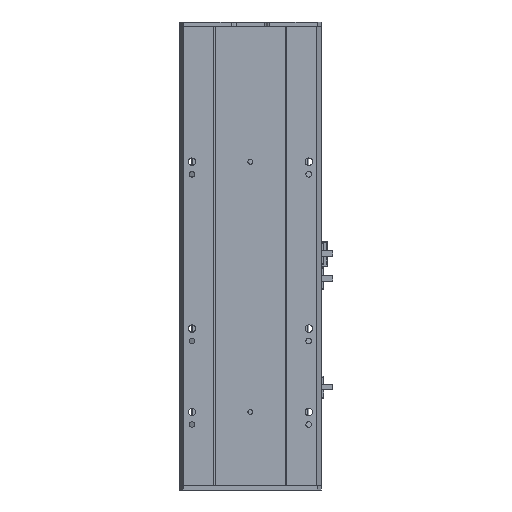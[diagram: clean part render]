
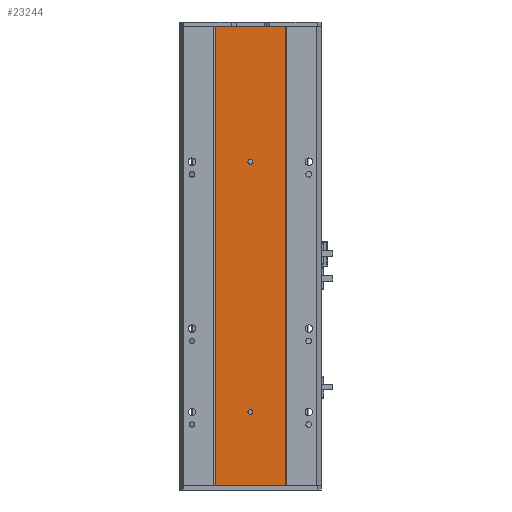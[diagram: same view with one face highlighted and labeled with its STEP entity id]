
A CAD part, front view. The second image highlights one B-rep face of the part: STEP entity #23244.
In plain terms, the highlighted planar face has unit normal (0, -1, 0).
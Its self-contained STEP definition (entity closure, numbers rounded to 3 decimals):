
#143 = FACE_OUTER_BOUND ( 'NONE', #19587, .T. ) ;
#452 = VECTOR ( 'NONE', #985, 1000. ) ;
#920 = VERTEX_POINT ( 'NONE', #22493 ) ;
#972 = EDGE_CURVE ( 'NONE', #9710, #8767, #8970, .T. ) ;
#985 = DIRECTION ( 'NONE',  ( -1., 0., 0. ) ) ;
#1713 = DIRECTION ( 'NONE',  ( 0., 0., 1. ) ) ;
#2142 = ORIENTED_EDGE ( 'NONE', *, *, #8214, .T. ) ;
#2225 = CARTESIAN_POINT ( 'NONE',  ( 85., 2.57, 85.5 ) ) ;
#2523 = CARTESIAN_POINT ( 'NONE',  ( 42.916, 2.57, 0. ) ) ;
#2587 = ORIENTED_EDGE ( 'NONE', *, *, #4840, .T. ) ;
#2681 = ORIENTED_EDGE ( 'NONE', *, *, #972, .F. ) ;
#3549 = CARTESIAN_POINT ( 'NONE',  ( 85., 2.57, 88.5 ) ) ;
#3808 = CARTESIAN_POINT ( 'NONE',  ( 126.916, 2.57, 0. ) ) ;
#4122 = VECTOR ( 'NONE', #15572, 1000. ) ;
#4279 = VERTEX_POINT ( 'NONE', #12403 ) ;
#4456 = EDGE_CURVE ( 'NONE', #16745, #21740, #17890, .T. ) ;
#4840 = EDGE_CURVE ( 'NONE', #14874, #6344, #14153, .T. ) ;
#5314 = LINE ( 'NONE', #19361, #452 ) ;
#5381 = DIRECTION ( 'NONE',  ( 0., 0., 1. ) ) ;
#6061 = DIRECTION ( 'NONE',  ( 0., 1., 0. ) ) ;
#6115 = LINE ( 'NONE', #6771, #19608 ) ;
#6344 = VERTEX_POINT ( 'NONE', #2225 ) ;
#6501 = DIRECTION ( 'NONE',  ( 0., 0., 1. ) ) ;
#6771 = CARTESIAN_POINT ( 'NONE',  ( 42.916, 2.57, 551. ) ) ;
#7745 = CARTESIAN_POINT ( 'NONE',  ( 42.916, 2.57, 0. ) ) ;
#8117 = VECTOR ( 'NONE', #18476, 1000. ) ;
#8214 = EDGE_CURVE ( 'NONE', #4279, #920, #20329, .T. ) ;
#8237 = ORIENTED_EDGE ( 'NONE', *, *, #4456, .T. ) ;
#8598 = DIRECTION ( 'NONE',  ( -1., 0., 0. ) ) ;
#8767 = VERTEX_POINT ( 'NONE', #23636 ) ;
#8945 = AXIS2_PLACEMENT_3D ( 'NONE', #3549, #16373, #5381 ) ;
#8970 = LINE ( 'NONE', #2523, #4122 ) ;
#9212 = EDGE_LOOP ( 'NONE', ( #11988, #2587 ) ) ;
#9399 = CARTESIAN_POINT ( 'NONE',  ( 126.916, 2.57, 0. ) ) ;
#9710 = VERTEX_POINT ( 'NONE', #7745 ) ;
#9890 = FACE_BOUND ( 'NONE', #13186, .T. ) ;
#10538 = EDGE_CURVE ( 'NONE', #16745, #9710, #5314, .T. ) ;
#10602 = DIRECTION ( 'NONE',  ( 0., 1., 0. ) ) ;
#10729 = EDGE_CURVE ( 'NONE', #6344, #14874, #15924, .T. ) ;
#11342 = CARTESIAN_POINT ( 'NONE',  ( 126.916, 2.57, 551. ) ) ;
#11988 = ORIENTED_EDGE ( 'NONE', *, *, #10729, .T. ) ;
#12320 = AXIS2_PLACEMENT_3D ( 'NONE', #21622, #10602, #23475 ) ;
#12403 = CARTESIAN_POINT ( 'NONE',  ( 85., 2.57, 385.5 ) ) ;
#12703 = DIRECTION ( 'NONE',  ( 0., 1., 0. ) ) ;
#13186 = EDGE_LOOP ( 'NONE', ( #2142, #14382 ) ) ;
#14153 = CIRCLE ( 'NONE', #18503, 3. ) ;
#14382 = ORIENTED_EDGE ( 'NONE', *, *, #18306, .T. ) ;
#14874 = VERTEX_POINT ( 'NONE', #23225 ) ;
#15572 = DIRECTION ( 'NONE',  ( 0., 0., 1. ) ) ;
#15645 = PLANE ( 'NONE',  #18546 ) ;
#15924 = CIRCLE ( 'NONE', #8945, 3. ) ;
#16199 = EDGE_CURVE ( 'NONE', #21740, #8767, #6115, .T. ) ;
#16373 = DIRECTION ( 'NONE',  ( 0., 1., 0. ) ) ;
#16745 = VERTEX_POINT ( 'NONE', #9399 ) ;
#17060 = CARTESIAN_POINT ( 'NONE',  ( 85., 2.57, 388.5 ) ) ;
#17495 = DIRECTION ( 'NONE',  ( 0., 1., 0. ) ) ;
#17890 = LINE ( 'NONE', #3808, #8117 ) ;
#18306 = EDGE_CURVE ( 'NONE', #920, #4279, #21716, .T. ) ;
#18476 = DIRECTION ( 'NONE',  ( 0., 0., 1. ) ) ;
#18503 = AXIS2_PLACEMENT_3D ( 'NONE', #23693, #12703, #1713 ) ;
#18546 = AXIS2_PLACEMENT_3D ( 'NONE', #22953, #17495, #6501 ) ;
#18911 = DIRECTION ( 'NONE',  ( 0., 0., 1. ) ) ;
#19361 = CARTESIAN_POINT ( 'NONE',  ( 42.916, 2.57, 0. ) ) ;
#19587 = EDGE_LOOP ( 'NONE', ( #22219, #2681, #21743, #8237 ) ) ;
#19608 = VECTOR ( 'NONE', #8598, 1000. ) ;
#19659 = FACE_BOUND ( 'NONE', #9212, .T. ) ;
#20329 = CIRCLE ( 'NONE', #12320, 3. ) ;
#21622 = CARTESIAN_POINT ( 'NONE',  ( 85., 2.57, 388.5 ) ) ;
#21716 = CIRCLE ( 'NONE', #21806, 3. ) ;
#21740 = VERTEX_POINT ( 'NONE', #11342 ) ;
#21743 = ORIENTED_EDGE ( 'NONE', *, *, #10538, .F. ) ;
#21806 = AXIS2_PLACEMENT_3D ( 'NONE', #17060, #6061, #18911 ) ;
#22219 = ORIENTED_EDGE ( 'NONE', *, *, #16199, .T. ) ;
#22493 = CARTESIAN_POINT ( 'NONE',  ( 85., 2.57, 391.5 ) ) ;
#22953 = CARTESIAN_POINT ( 'NONE',  ( 42.916, 2.57, 0. ) ) ;
#23225 = CARTESIAN_POINT ( 'NONE',  ( 85., 2.57, 91.5 ) ) ;
#23244 = ADVANCED_FACE ( 'NONE', ( #19659, #9890, #143 ), #15645, .F. ) ;
#23475 = DIRECTION ( 'NONE',  ( 0., 0., 1. ) ) ;
#23636 = CARTESIAN_POINT ( 'NONE',  ( 42.916, 2.57, 551. ) ) ;
#23693 = CARTESIAN_POINT ( 'NONE',  ( 85., 2.57, 88.5 ) ) ;
